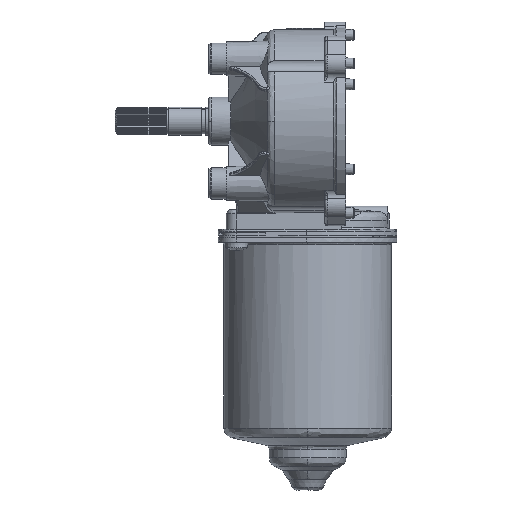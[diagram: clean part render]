
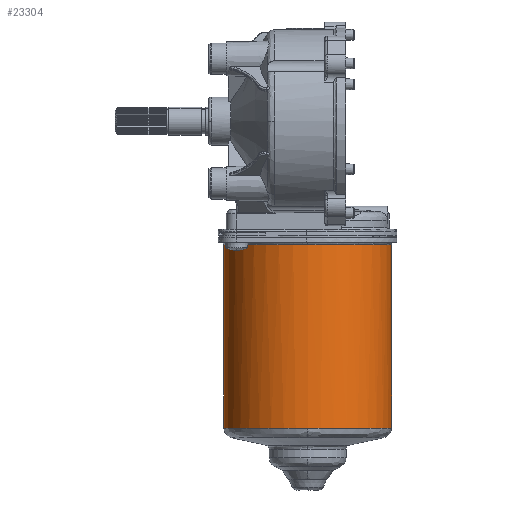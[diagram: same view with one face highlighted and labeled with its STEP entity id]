
A CAD part, front view. The second image highlights one B-rep face of the part: STEP entity #23304.
In plain terms, the highlighted cylindrical face has radius 29.599 mm (diameter 59.199 mm), a partial arc.
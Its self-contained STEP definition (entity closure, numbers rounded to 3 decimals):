
#11 = B_SPLINE_CURVE_WITH_KNOTS ( 'NONE', 3,
 ( #34048, #34346, #34345, #34343, #34342, #34341, #34338, #34337, #34336, #34335, #34334, #34333, #34332, #34331, #34330, #34329, #34328, #34327 ),
 .UNSPECIFIED., .F., .F.,
 ( 4, 2, 2, 2, 2, 2, 2, 2, 4 ),
 ( 0.5, 0.563, 0.625, 0.688, 0.75, 0.813, 0.875, 0.938, 1. ),
 .UNSPECIFIED. ) ;
#2237 = AXIS2_PLACEMENT_3D ( 'NONE', #30115, #30122, #30146 ) ;
#2912 = AXIS2_PLACEMENT_3D ( 'NONE', #34257, #34255, #34254 ) ;
#2984 = EDGE_CURVE ( 'NONE', #29861, #25516, #11, .T. ) ;
#3057 = EDGE_CURVE ( 'NONE', #29639, #25423, #35837, .T. ) ;
#3792 = EDGE_CURVE ( 'NONE', #29039, #29639, #23988, .T. ) ;
#3830 = EDGE_CURVE ( 'NONE', #29861, #25552, #23997, .T. ) ;
#8200 = CIRCLE ( 'NONE', #21939, 29.599 ) ;
#9162 = CARTESIAN_POINT ( 'NONE',  ( -4.6, 31.001, -43.7 ) ) ;
#9222 = CARTESIAN_POINT ( 'NONE',  ( 24.999, 1.401, -108.318 ) ) ;
#9368 = CARTESIAN_POINT ( 'NONE',  ( 24.999, 1.401, -43.7 ) ) ;
#9747 = B_SPLINE_CURVE_WITH_KNOTS ( 'NONE', 3,
 ( #17179, #17183, #17184, #17185, #17186, #17187, #17188, #17189, #17190, #17191, #17192, #17193, #17194, #17195, #17196, #17197, #17198, #17199 ),
 .UNSPECIFIED., .F., .F.,
 ( 4, 2, 2, 2, 2, 2, 2, 2, 4 ),
 ( 0., 0.062, 0.125, 0.187, 0.25, 0.313, 0.375, 0.437, 0.5 ),
 .UNSPECIFIED. ) ;
#15325 = ORIENTED_EDGE ( 'NONE', *, *, #34498, .T. ) ;
#15344 = ORIENTED_EDGE ( 'NONE', *, *, #3057, .T. ) ;
#16112 = CARTESIAN_POINT ( 'NONE',  ( 54.599, 31.001, -108.318 ) ) ;
#16384 = CARTESIAN_POINT ( 'NONE',  ( 54.599, 31.001, -43.7 ) ) ;
#16580 = CARTESIAN_POINT ( 'NONE',  ( -4.6, 31.001, -108.318 ) ) ;
#17179 = CARTESIAN_POINT ( 'NONE',  ( 24.999, 1.401, -108.318 ) ) ;
#17183 = CARTESIAN_POINT ( 'NONE',  ( 26.936, 1.401, -108.318 ) ) ;
#17184 = CARTESIAN_POINT ( 'NONE',  ( 28.874, 1.592, -108.318 ) ) ;
#17185 = CARTESIAN_POINT ( 'NONE',  ( 32.674, 2.348, -108.318 ) ) ;
#17186 = CARTESIAN_POINT ( 'NONE',  ( 34.537, 2.913, -108.318 ) ) ;
#17187 = CARTESIAN_POINT ( 'NONE',  ( 38.116, 4.396, -108.318 ) ) ;
#17188 = CARTESIAN_POINT ( 'NONE',  ( 39.833, 5.313, -108.318 ) ) ;
#17189 = CARTESIAN_POINT ( 'NONE',  ( 43.055, 7.466, -108.318 ) ) ;
#17190 = CARTESIAN_POINT ( 'NONE',  ( 44.559, 8.701, -108.318 ) ) ;
#17191 = CARTESIAN_POINT ( 'NONE',  ( 47.299, 11.44, -108.318 ) ) ;
#17192 = CARTESIAN_POINT ( 'NONE',  ( 48.534, 12.945, -108.318 ) ) ;
#17193 = CARTESIAN_POINT ( 'NONE',  ( 50.687, 16.167, -108.318 ) ) ;
#17194 = CARTESIAN_POINT ( 'NONE',  ( 51.604, 17.884, -108.318 ) ) ;
#17195 = CARTESIAN_POINT ( 'NONE',  ( 53.087, 21.463, -108.318 ) ) ;
#17196 = CARTESIAN_POINT ( 'NONE',  ( 53.652, 23.326, -108.318 ) ) ;
#17197 = CARTESIAN_POINT ( 'NONE',  ( 54.408, 27.126, -108.318 ) ) ;
#17198 = CARTESIAN_POINT ( 'NONE',  ( 54.599, 29.063, -108.318 ) ) ;
#17199 = CARTESIAN_POINT ( 'NONE',  ( 54.599, 31.001, -108.318 ) ) ;
#17230 = CARTESIAN_POINT ( 'NONE',  ( 24.999, 31.001, -43.7 ) ) ;
#17232 = DIRECTION ( 'NONE',  ( 0., 0., -1. ) ) ;
#17233 = DIRECTION ( 'NONE',  ( 0., -1., 0. ) ) ;
#21939 = AXIS2_PLACEMENT_3D ( 'NONE', #17230, #17232, #17233 ) ;
#23304 = ADVANCED_FACE ( 'NONE', ( #24489 ), #24490, .T. ) ;
#23982 = VECTOR ( 'NONE', #33947, 1000. ) ;
#23988 = LINE ( 'NONE', #33953, #23982 ) ;
#23997 = LINE ( 'NONE', #33800, #23998 ) ;
#23998 = VECTOR ( 'NONE', #33799, 1000. ) ;
#24489 = FACE_OUTER_BOUND ( 'NONE', #32362, .T. ) ;
#24490 = CYLINDRICAL_SURFACE ( 'NONE', #2237, 29.599 ) ;
#25423 = VERTEX_POINT ( 'NONE', #9368 ) ;
#25516 = VERTEX_POINT ( 'NONE', #9222 ) ;
#25552 = VERTEX_POINT ( 'NONE', #9162 ) ;
#27299 = ORIENTED_EDGE ( 'NONE', *, *, #3830, .F. ) ;
#27302 = ORIENTED_EDGE ( 'NONE', *, *, #3792, .T. ) ;
#27544 = ORIENTED_EDGE ( 'NONE', *, *, #34504, .T. ) ;
#27548 = ORIENTED_EDGE ( 'NONE', *, *, #2984, .T. ) ;
#29039 = VERTEX_POINT ( 'NONE', #16112 ) ;
#29639 = VERTEX_POINT ( 'NONE', #16384 ) ;
#29861 = VERTEX_POINT ( 'NONE', #16580 ) ;
#30115 = CARTESIAN_POINT ( 'NONE',  ( 24.999, 31.001, -108.318 ) ) ;
#30122 = DIRECTION ( 'NONE',  ( 0., 0., 1. ) ) ;
#30146 = DIRECTION ( 'NONE',  ( 1., 0., 0. ) ) ;
#32362 = EDGE_LOOP ( 'NONE', ( #27299, #27548, #15325, #27302, #15344, #27544 ) ) ;
#33799 = DIRECTION ( 'NONE',  ( 0., 0., 1. ) ) ;
#33800 = CARTESIAN_POINT ( 'NONE',  ( -4.6, 31.001, -108.318 ) ) ;
#33947 = DIRECTION ( 'NONE',  ( 0., 0., 1. ) ) ;
#33953 = CARTESIAN_POINT ( 'NONE',  ( 54.599, 31.001, -108.318 ) ) ;
#34048 = CARTESIAN_POINT ( 'NONE',  ( -4.6, 31.001, -108.318 ) ) ;
#34254 = DIRECTION ( 'NONE',  ( 0., -1., 0. ) ) ;
#34255 = DIRECTION ( 'NONE',  ( 0., 0., -1. ) ) ;
#34257 = CARTESIAN_POINT ( 'NONE',  ( 24.999, 31.001, -43.7 ) ) ;
#34327 = CARTESIAN_POINT ( 'NONE',  ( 24.999, 1.401, -108.318 ) ) ;
#34328 = CARTESIAN_POINT ( 'NONE',  ( 23.062, 1.401, -108.318 ) ) ;
#34329 = CARTESIAN_POINT ( 'NONE',  ( 21.125, 1.592, -108.318 ) ) ;
#34330 = CARTESIAN_POINT ( 'NONE',  ( 17.325, 2.348, -108.318 ) ) ;
#34331 = CARTESIAN_POINT ( 'NONE',  ( 15.462, 2.913, -108.318 ) ) ;
#34332 = CARTESIAN_POINT ( 'NONE',  ( 11.882, 4.396, -108.318 ) ) ;
#34333 = CARTESIAN_POINT ( 'NONE',  ( 10.165, 5.313, -108.318 ) ) ;
#34334 = CARTESIAN_POINT ( 'NONE',  ( 6.944, 7.466, -108.318 ) ) ;
#34335 = CARTESIAN_POINT ( 'NONE',  ( 5.439, 8.701, -108.318 ) ) ;
#34336 = CARTESIAN_POINT ( 'NONE',  ( 2.699, 11.44, -108.318 ) ) ;
#34337 = CARTESIAN_POINT ( 'NONE',  ( 1.464, 12.945, -108.318 ) ) ;
#34338 = CARTESIAN_POINT ( 'NONE',  ( -0.688, 16.167, -108.318 ) ) ;
#34341 = CARTESIAN_POINT ( 'NONE',  ( -1.606, 17.884, -108.318 ) ) ;
#34342 = CARTESIAN_POINT ( 'NONE',  ( -3.089, 21.463, -108.318 ) ) ;
#34343 = CARTESIAN_POINT ( 'NONE',  ( -3.654, 23.326, -108.318 ) ) ;
#34345 = CARTESIAN_POINT ( 'NONE',  ( -4.41, 27.126, -108.318 ) ) ;
#34346 = CARTESIAN_POINT ( 'NONE',  ( -4.6, 29.063, -108.318 ) ) ;
#34498 = EDGE_CURVE ( 'NONE', #25516, #29039, #9747, .T. ) ;
#34504 = EDGE_CURVE ( 'NONE', #25423, #25552, #8200, .T. ) ;
#35837 = CIRCLE ( 'NONE', #2912, 29.599 ) ;
